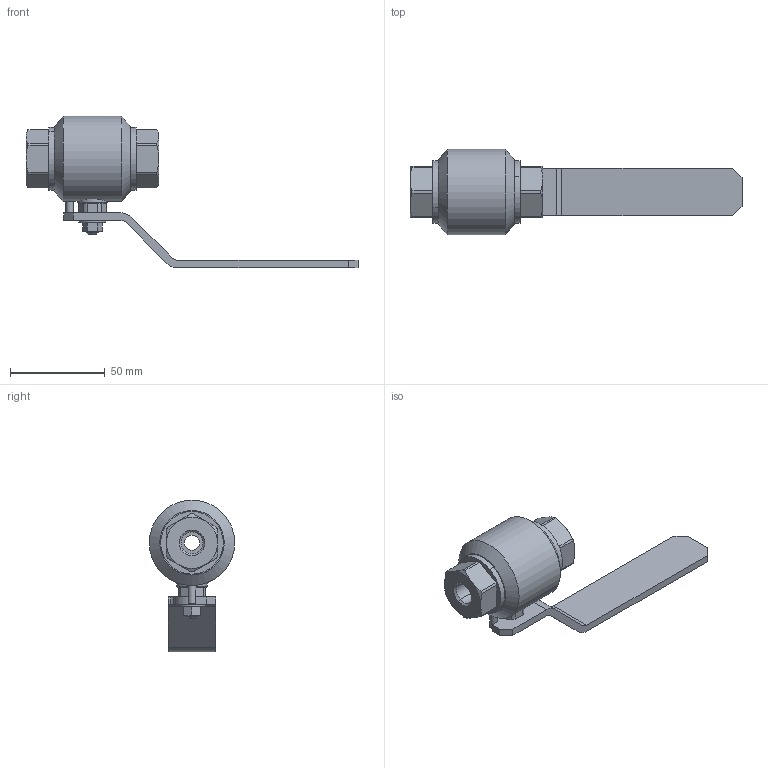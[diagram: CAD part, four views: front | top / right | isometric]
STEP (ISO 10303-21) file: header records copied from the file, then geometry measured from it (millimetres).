
FILE_DESCRIPTION(('STEP AP203'), '1');
FILE_NAME('ZARDP 008.160.10.P.stp', '2013-12-05T08:13:46', ('Øèøêî'), ('Computer'), 'ASCON STEP Converter 1.3', 'Kompas 3D', '');
FILE_SCHEMA(('CONFIG_CONTROL_DESIGN','SUPPORT_RESOURCE_SCHEMA'));
Length unit declared in the file: millimetre
Products named in the file (1): 17
Bounding box: 175 x 45 x 80 mm (x, y, z)
Volume: 84858.8 mm3; surface area: 25824.5 mm2
Topology: 1 solids, 3 shells, 189 faces, 456 edges, 282 vertices
Faces by surface type: plane 96, cylinder 52, cone 40, bspline 1
Full cylindrical faces by diameter (mm): 4 x2, 6 x2, 8.673 x1, 9 x1, 10 x1, 10.1 x1, 14.2 x1, 15.8 x1, 16 x3, 25.4 x1, 45 x1
Entity records: 7203 total; most frequent: CARTESIAN_POINT 2647, DIRECTION 965, ORIENTED_EDGE 910, EDGE_CURVE 455, AXIS2_PLACEMENT_3D 370, VERTEX_POINT 282, LINE 225, VECTOR 225
